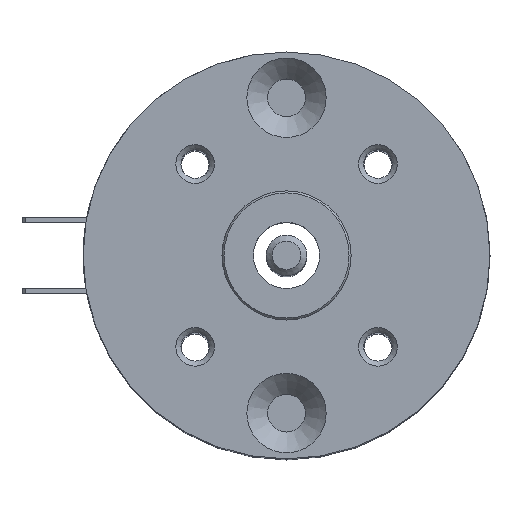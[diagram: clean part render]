
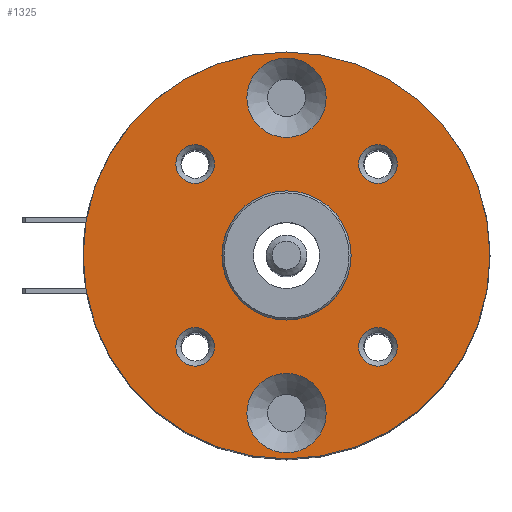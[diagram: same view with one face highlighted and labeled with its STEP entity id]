
A CAD part, top view. The second image highlights one B-rep face of the part: STEP entity #1325.
In plain terms, the highlighted planar face has unit normal (0, 0, 1).
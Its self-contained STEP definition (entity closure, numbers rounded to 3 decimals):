
#72=FACE_BOUND('',#278,.T.);
#73=FACE_BOUND('',#279,.T.);
#74=FACE_BOUND('',#280,.T.);
#75=FACE_BOUND('',#281,.T.);
#76=FACE_BOUND('',#282,.T.);
#77=FACE_BOUND('',#283,.T.);
#78=FACE_BOUND('',#284,.T.);
#149=PLANE('',#1589);
#194=FACE_OUTER_BOUND('',#277,.T.);
#277=EDGE_LOOP('',(#1076));
#278=EDGE_LOOP('',(#1077,#1078));
#279=EDGE_LOOP('',(#1079,#1080));
#280=EDGE_LOOP('',(#1081));
#281=EDGE_LOOP('',(#1082));
#282=EDGE_LOOP('',(#1083));
#283=EDGE_LOOP('',(#1084));
#284=EDGE_LOOP('',(#1085));
#555=CIRCLE('',#1574,3.9);
#556=CIRCLE('',#1575,3.9);
#560=CIRCLE('',#1581,3.9);
#561=CIRCLE('',#1582,3.9);
#565=CIRCLE('',#1588,1.9);
#566=CIRCLE('',#1590,20.);
#567=CIRCLE('',#1591,1.9);
#568=CIRCLE('',#1592,1.9);
#569=CIRCLE('',#1593,6.35);
#570=CIRCLE('',#1594,1.9);
#670=VERTEX_POINT('',#2284);
#671=VERTEX_POINT('',#2286);
#675=VERTEX_POINT('',#2298);
#676=VERTEX_POINT('',#2300);
#680=VERTEX_POINT('',#2312);
#681=VERTEX_POINT('',#2316);
#682=VERTEX_POINT('',#2318);
#683=VERTEX_POINT('',#2320);
#684=VERTEX_POINT('',#2322);
#685=VERTEX_POINT('',#2324);
#809=EDGE_CURVE('',#671,#670,#555,.T.);
#810=EDGE_CURVE('',#670,#671,#556,.T.);
#816=EDGE_CURVE('',#676,#675,#560,.T.);
#817=EDGE_CURVE('',#675,#676,#561,.T.);
#823=EDGE_CURVE('',#680,#680,#565,.T.);
#824=EDGE_CURVE('',#681,#681,#566,.T.);
#825=EDGE_CURVE('',#682,#682,#567,.T.);
#826=EDGE_CURVE('',#683,#683,#568,.T.);
#827=EDGE_CURVE('',#684,#684,#569,.T.);
#828=EDGE_CURVE('',#685,#685,#570,.T.);
#1076=ORIENTED_EDGE('',*,*,#824,.F.);
#1077=ORIENTED_EDGE('',*,*,#809,.T.);
#1078=ORIENTED_EDGE('',*,*,#810,.T.);
#1079=ORIENTED_EDGE('',*,*,#816,.T.);
#1080=ORIENTED_EDGE('',*,*,#817,.T.);
#1081=ORIENTED_EDGE('',*,*,#825,.F.);
#1082=ORIENTED_EDGE('',*,*,#826,.F.);
#1083=ORIENTED_EDGE('',*,*,#827,.T.);
#1084=ORIENTED_EDGE('',*,*,#828,.F.);
#1085=ORIENTED_EDGE('',*,*,#823,.F.);
#1325=ADVANCED_FACE('',(#194,#72,#73,#74,#75,#76,#77,#78),#149,.F.);
#1574=AXIS2_PLACEMENT_3D('',#2287,#1847,#1848);
#1575=AXIS2_PLACEMENT_3D('',#2288,#1849,#1850);
#1581=AXIS2_PLACEMENT_3D('',#2301,#1863,#1864);
#1582=AXIS2_PLACEMENT_3D('',#2302,#1865,#1866);
#1588=AXIS2_PLACEMENT_3D('',#2314,#1879,#1880);
#1589=AXIS2_PLACEMENT_3D('',#2315,#1881,#1882);
#1590=AXIS2_PLACEMENT_3D('',#2317,#1883,#1884);
#1591=AXIS2_PLACEMENT_3D('',#2319,#1885,#1886);
#1592=AXIS2_PLACEMENT_3D('',#2321,#1887,#1888);
#1593=AXIS2_PLACEMENT_3D('',#2323,#1889,#1890);
#1594=AXIS2_PLACEMENT_3D('',#2325,#1891,#1892);
#1847=DIRECTION('center_axis',(0.,0.,-1.));
#1848=DIRECTION('ref_axis',(-1.,0.,0.));
#1849=DIRECTION('center_axis',(0.,0.,-1.));
#1850=DIRECTION('ref_axis',(-1.,0.,0.));
#1863=DIRECTION('center_axis',(0.,0.,-1.));
#1864=DIRECTION('ref_axis',(1.,0.,0.));
#1865=DIRECTION('center_axis',(0.,0.,-1.));
#1866=DIRECTION('ref_axis',(1.,0.,0.));
#1879=DIRECTION('center_axis',(0.,0.,1.));
#1880=DIRECTION('ref_axis',(0.,-1.,0.));
#1881=DIRECTION('center_axis',(0.,0.,-1.));
#1882=DIRECTION('ref_axis',(-1.,0.,0.));
#1883=DIRECTION('center_axis',(0.,0.,-1.));
#1884=DIRECTION('ref_axis',(-1.,0.,0.));
#1885=DIRECTION('center_axis',(0.,0.,1.));
#1886=DIRECTION('ref_axis',(1.,0.,0.));
#1887=DIRECTION('center_axis',(0.,0.,1.));
#1888=DIRECTION('ref_axis',(-1.,0.,0.));
#1889=DIRECTION('center_axis',(0.,0.,-1.));
#1890=DIRECTION('ref_axis',(-1.,0.,0.));
#1891=DIRECTION('center_axis',(0.,0.,1.));
#1892=DIRECTION('ref_axis',(0.,1.,0.));
#2284=CARTESIAN_POINT('',(-11.6,0.,12.6));
#2286=CARTESIAN_POINT('',(-19.4,0.,12.6));
#2287=CARTESIAN_POINT('Origin',(-15.5,0.,12.6));
#2288=CARTESIAN_POINT('Origin',(-15.5,0.,12.6));
#2298=CARTESIAN_POINT('',(11.6,0.,12.6));
#2300=CARTESIAN_POINT('',(19.4,0.,12.6));
#2301=CARTESIAN_POINT('Origin',(15.5,0.,12.6));
#2302=CARTESIAN_POINT('Origin',(15.5,0.,12.6));
#2312=CARTESIAN_POINT('',(-8.98,10.88,12.6));
#2314=CARTESIAN_POINT('Origin',(-8.98,8.98,12.6));
#2315=CARTESIAN_POINT('Origin',(0.,0.,12.6));
#2316=CARTESIAN_POINT('',(20.,0.,12.6));
#2317=CARTESIAN_POINT('Origin',(0.,0.,12.6));
#2318=CARTESIAN_POINT('',(-10.88,-8.98,12.6));
#2319=CARTESIAN_POINT('Origin',(-8.98,-8.98,12.6));
#2320=CARTESIAN_POINT('',(10.88,8.98,12.6));
#2321=CARTESIAN_POINT('Origin',(8.98,8.98,12.6));
#2322=CARTESIAN_POINT('',(6.35,0.,12.6));
#2323=CARTESIAN_POINT('Origin',(0.,0.,12.6));
#2324=CARTESIAN_POINT('',(8.98,-10.88,12.6));
#2325=CARTESIAN_POINT('Origin',(8.98,-8.98,12.6));
